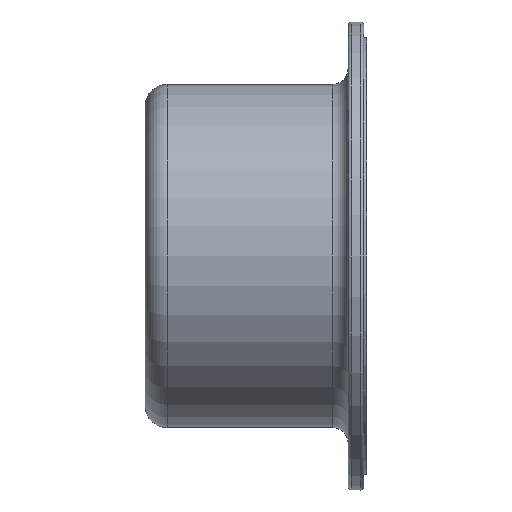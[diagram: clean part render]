
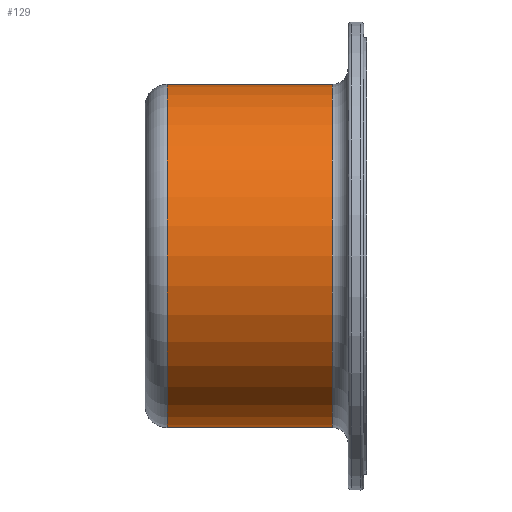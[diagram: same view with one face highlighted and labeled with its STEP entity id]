
A CAD part, front view. The second image highlights one B-rep face of the part: STEP entity #129.
In plain terms, the highlighted cylindrical face has radius 2.75 mm (diameter 5.5 mm), a full revolution.
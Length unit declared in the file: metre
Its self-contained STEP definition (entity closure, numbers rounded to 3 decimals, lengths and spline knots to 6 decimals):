
#13=CYLINDRICAL_SURFACE('',#162,0.00275);
#30=ORIENTED_EDGE('',*,*,#50,.T.);
#31=ORIENTED_EDGE('',*,*,#48,.T.);
#48=EDGE_CURVE('',#59,#59,#70,.T.);
#50=EDGE_CURVE('',#61,#61,#72,.T.);
#59=VERTEX_POINT('',#238);
#61=VERTEX_POINT('',#244);
#70=CIRCLE('',#159,0.00275);
#72=CIRCLE('',#163,0.00275);
#85=EDGE_LOOP('',(#30));
#86=EDGE_LOOP('',(#31));
#107=FACE_BOUND('',#85,.T.);
#108=FACE_BOUND('',#86,.T.);
#129=ADVANCED_FACE('',(#107,#108),#13,.T.);
#159=AXIS2_PLACEMENT_3D('',#237,#195,#196);
#162=AXIS2_PLACEMENT_3D('',#242,#201,#202);
#163=AXIS2_PLACEMENT_3D('',#243,#203,#204);
#195=DIRECTION('',(1.,0.,0.));
#196=DIRECTION('',(0.,0.,1.));
#201=DIRECTION('',(1.,0.,0.));
#202=DIRECTION('',(0.,0.,1.));
#203=DIRECTION('',(-1.,0.,0.));
#204=DIRECTION('',(0.,0.,-1.));
#237=CARTESIAN_POINT('',(-0.11875,-0.01715,-0.0083));
#238=CARTESIAN_POINT('',(-0.11875,-0.01715,-0.00555));
#242=CARTESIAN_POINT('',(-0.11565,-0.01715,-0.0083));
#243=CARTESIAN_POINT('',(-0.1161,-0.01715,-0.0083));
#244=CARTESIAN_POINT('',(-0.1161,-0.01715,-0.01105));
